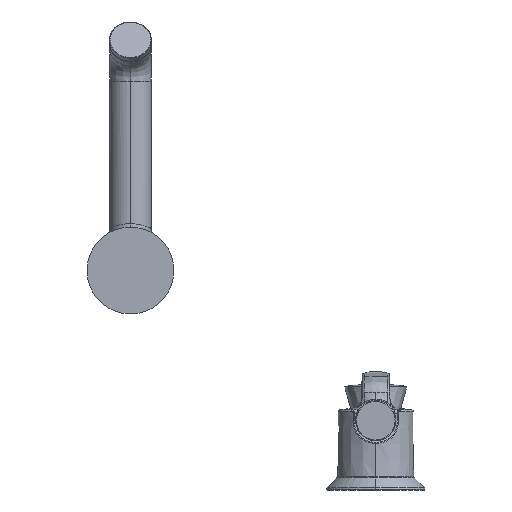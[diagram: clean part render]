
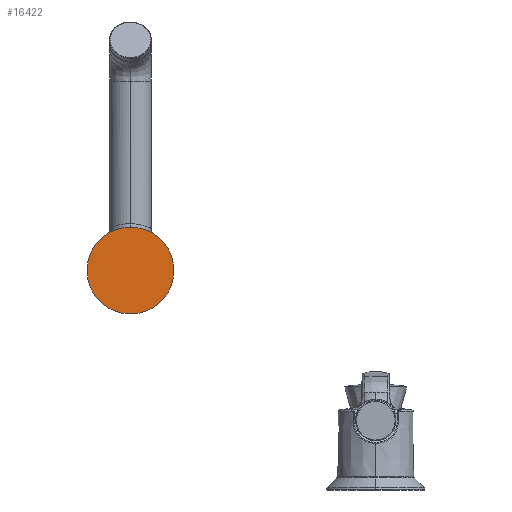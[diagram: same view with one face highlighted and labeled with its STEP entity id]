
A CAD part, front view. The second image highlights one B-rep face of the part: STEP entity #16422.
In plain terms, the highlighted planar face has unit normal (0, -1, 0).
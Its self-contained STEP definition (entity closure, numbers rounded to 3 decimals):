
#720 = ORIENTED_EDGE ( 'NONE', *, *, #5532, .F. ) ;
#2233 = ORIENTED_EDGE ( 'NONE', *, *, #24907, .F. ) ;
#3312 = CARTESIAN_POINT ( 'NONE',  ( 0., 0., 0. ) ) ;
#5532 = EDGE_CURVE ( 'NONE', #29535, #30465, #12870, .T. ) ;
#6603 = DIRECTION ( 'NONE',  ( 0., 1., 0. ) ) ;
#12521 = CARTESIAN_POINT ( 'NONE',  ( -25., 0., 0. ) ) ;
#12681 = DIRECTION ( 'NONE',  ( 1., 0., 0. ) ) ;
#12870 = CIRCLE ( 'NONE', #18834, 25. ) ;
#13696 = DIRECTION ( 'NONE',  ( 0., 1., 0. ) ) ;
#15883 = CARTESIAN_POINT ( 'NONE',  ( 25., 0., 0. ) ) ;
#16099 = CARTESIAN_POINT ( 'NONE',  ( 0., 0., 0. ) ) ;
#16422 = ADVANCED_FACE ( 'NONE', ( #20211 ), #27210, .F. ) ;
#18322 = DIRECTION ( 'NONE',  ( 1., 0., 0. ) ) ;
#18834 = AXIS2_PLACEMENT_3D ( 'NONE', #16099, #6603, #25266 ) ;
#20211 = FACE_OUTER_BOUND ( 'NONE', #21103, .T. ) ;
#20792 = AXIS2_PLACEMENT_3D ( 'NONE', #3312, #26800, #12681 ) ;
#21103 = EDGE_LOOP ( 'NONE', ( #2233, #720 ) ) ;
#23092 = CIRCLE ( 'NONE', #27924, 25. ) ;
#24907 = EDGE_CURVE ( 'NONE', #30465, #29535, #23092, .T. ) ;
#25266 = DIRECTION ( 'NONE',  ( 1., 0., 0. ) ) ;
#26800 = DIRECTION ( 'NONE',  ( 0., 1., 0. ) ) ;
#27210 = PLANE ( 'NONE',  #20792 ) ;
#27799 = CARTESIAN_POINT ( 'NONE',  ( 0., 0., 0. ) ) ;
#27924 = AXIS2_PLACEMENT_3D ( 'NONE', #27799, #13696, #18322 ) ;
#29535 = VERTEX_POINT ( 'NONE', #15883 ) ;
#30465 = VERTEX_POINT ( 'NONE', #12521 ) ;
